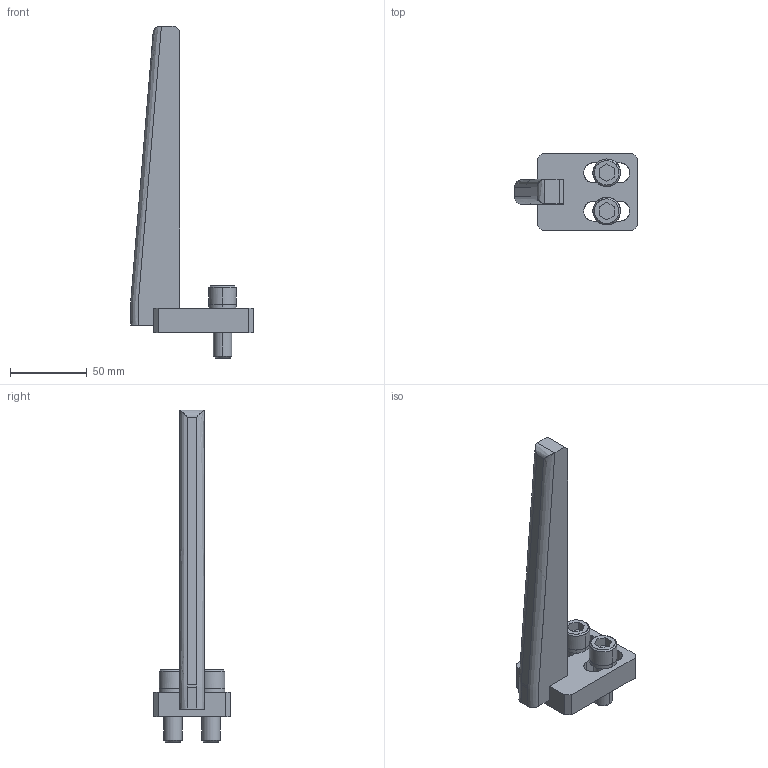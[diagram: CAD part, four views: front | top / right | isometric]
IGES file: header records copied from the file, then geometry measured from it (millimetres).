
Global section: file name: E:\UnigraphicsGraphicData\MISUMI_PRESS-PARTS\IGES\3d_ngga-200-20-15_01479_r00.igs; native system: NX V5.0; preprocessor: UGS NX IGES V5.0; author: MISUMI; date: 20110105.162029; units: millimetre
Bounding box: 80 x 50 x 216.5 mm (x, y, z)
Surface area: 34008.5 mm2 (no closed solid volume)
Topology: 0 solids, 0 shells, 103 faces, 665 edges, 665 vertices
Faces by surface type: bspline 103
